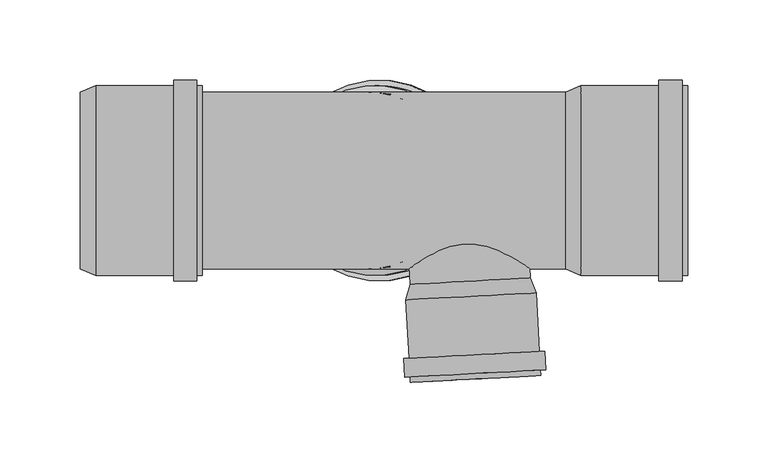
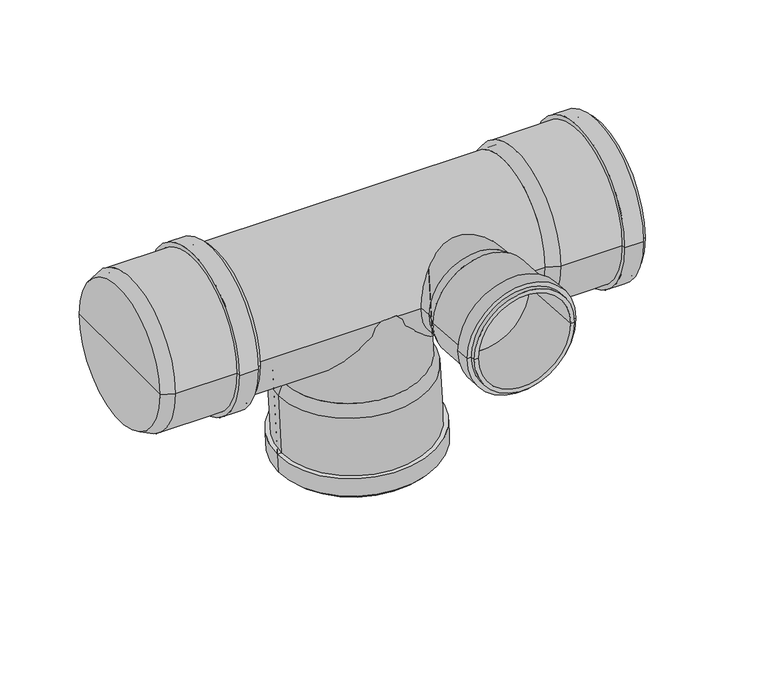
"""IFC4 building model written with IfcOpenShell, lengths in millimetres: pipe fitting geometry, pf_HTEP : pf_HTEP."""

from ifc_helpers import new_model, si_unit, point, frame, origin, origin_2d, place, context, project, spatial, polyline, circle_curve, trimmed, segment, composite_curve, outline, extrude, source, transform, mapped, element, save
from ifc_brep_helpers import plane_surface, cylinder_surface, revolved_surface, advanced_brep


def pipe_fitting_6fac2806(model_context):
    return source(origin(), model_context, "Body", "SolidModel", [
        advanced_brep(
        [(-111.5227873, 0.0, -67.7893974), (-1.6735384, 0.0, -62.0324422), (2.9180342, 0.0, -71.3048453), (-115.1199768, 0.0, -77.4909554), (-56.5981628, 0.0, -64.9109198), (-111.6396357, 0.0, -143.8998194), (6.3983753, 0.0, -137.7137094), (2.3039942, 0.0, -137.9282868), (-107.5452546, 0.0, -143.685242), (-111.8175779, 0.0, -140.504479), (6.2204331, 0.0, -134.318369), (-115.2129183, 0.0, -140.6824212), (9.6157735, 0.0, -134.1404267), (-115.9717897, 0.0, -126.202293), (8.8569021, 0.0, -119.6602985), (-112.5764493, 0.0, -126.0243507), (5.4615617, 0.0, -119.8382407), (-111.0255957, 0.0, -77.2763779), (-1.1763468, 0.0, -71.5194227), (-56.1009713, 0.0, -74.3979003)],
        [
            (0, 1, circle_curve(frame((-56.5981628, 0.0, -64.9109198), z_axis=(0.05233595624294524, 0.0, -0.9986295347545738), x_axis=(0.9986295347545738, 0.0, 0.05233595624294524)), 55.0)),
            (1, 2),
            (2, 3, circle_curve(frame((-56.1009713, 0.0, -74.3979003), z_axis=(-0.05233595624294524, 0.0, 0.9986295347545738), x_axis=(0.9986295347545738, 0.0, 0.05233595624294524)), 59.1)),
            (3, 0),
            (1, 0, circle_curve(frame((-56.5981628, 0.0, -64.9109198), z_axis=(0.05233595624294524, 0.0, -0.9986295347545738), x_axis=(0.9986295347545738, 0.0, 0.05233595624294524)), 55.0)),
            (3, 2, circle_curve(frame((-56.1009713, 0.0, -74.3979003), z_axis=(-0.05233595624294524, 0.0, 0.9986295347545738), x_axis=(0.9986295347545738, 0.0, 0.05233595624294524)), 59.1)),
            (4, 1),
            (0, 4),
            (5, 6, circle_curve(frame((-52.6206302, 0.0, -140.8067644), z_axis=(0.05233595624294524, 0.0, -0.9986295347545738), x_axis=(0.9986295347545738, 0.0, 0.05233595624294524)), 59.1)),
            (6, 7),
            (7, 8, circle_curve(frame((-52.6206302, 0.0, -140.8067644), z_axis=(-0.05233595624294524, 0.0, 0.9986295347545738), x_axis=(0.9986295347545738, 0.0, 0.05233595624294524)), 55.0)),
            (8, 5),
            (6, 5, circle_curve(frame((-52.6206302, 0.0, -140.8067644), z_axis=(0.05233595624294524, 0.0, -0.9986295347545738), x_axis=(0.9986295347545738, 0.0, 0.05233595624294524)), 59.1)),
            (8, 7, circle_curve(frame((-52.6206302, 0.0, -140.8067644), z_axis=(-0.05233595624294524, 0.0, 0.9986295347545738), x_axis=(0.9986295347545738, 0.0, 0.05233595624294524)), 55.0)),
            (9, 10, circle_curve(frame((-52.7985724, 0.0, -137.411424), z_axis=(0.05233595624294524, 0.0, -0.9986295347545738), x_axis=(0.9986295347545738, 0.0, 0.05233595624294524)), 59.1)),
            (10, 6),
            (5, 9),
            (10, 9, circle_curve(frame((-52.7985724, 0.0, -137.411424), z_axis=(0.05233595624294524, 0.0, -0.9986295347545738), x_axis=(0.9986295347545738, 0.0, 0.05233595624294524)), 59.1)),
            (11, 12, circle_curve(frame((-52.7985724, 0.0, -137.411424), z_axis=(0.05233595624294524, 0.0, -0.9986295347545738), x_axis=(0.9986295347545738, 0.0, 0.05233595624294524)), 62.5)),
            (12, 10),
            (9, 11),
            (12, 11, circle_curve(frame((-52.7985724, 0.0, -137.411424), z_axis=(0.05233595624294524, 0.0, -0.9986295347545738), x_axis=(0.9986295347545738, 0.0, 0.05233595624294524)), 62.5)),
            (13, 14, circle_curve(frame((-53.5574438, 0.0, -122.9312957), z_axis=(0.05233595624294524, 0.0, -0.9986295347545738), x_axis=(0.9986295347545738, 0.0, 0.05233595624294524)), 62.5)),
            (14, 12),
            (11, 13),
            (14, 13, circle_curve(frame((-53.5574438, 0.0, -122.9312957), z_axis=(0.05233595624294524, 0.0, -0.9986295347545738), x_axis=(0.9986295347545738, 0.0, 0.05233595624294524)), 62.5)),
            (15, 16, circle_curve(frame((-53.5574438, 0.0, -122.9312957), z_axis=(0.05233595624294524, 0.0, -0.9986295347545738), x_axis=(0.9986295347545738, 0.0, 0.05233595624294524)), 59.1)),
            (16, 14),
            (13, 15),
            (16, 15, circle_curve(frame((-53.5574438, 0.0, -122.9312957), z_axis=(0.05233595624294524, 0.0, -0.9986295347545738), x_axis=(0.9986295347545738, 0.0, 0.05233595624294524)), 59.1)),
            (2, 16),
            (15, 3),
            (17, 18, circle_curve(frame((-56.1009713, 0.0, -74.3979003), z_axis=(0.05233595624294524, 0.0, -0.9986295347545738), x_axis=(0.9986295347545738, 0.0, 0.05233595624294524)), 55.0)),
            (18, 19),
            (19, 17),
            (18, 17, circle_curve(frame((-56.1009713, 0.0, -74.3979003), z_axis=(0.05233595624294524, 0.0, -0.9986295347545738), x_axis=(0.9986295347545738, 0.0, 0.05233595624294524)), 55.0)),
            (7, 18),
            (17, 8),
        ],
        [
            revolved_surface(polyline([(2.9180342, 0.0, -71.3048453), (-1.6735384, 0.0, -62.0324422)]), (-56.5981628, 0.0, -64.9109198), (-0.05233595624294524, 0.0, 0.9986295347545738)),
            plane_surface(frame((-56.5981628, 0.0, -64.9109198), z_axis=(-0.05233595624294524, 0.0, 0.9986295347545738), x_axis=(0.9986295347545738, 0.0, 0.05233595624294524))),
            plane_surface(frame((-52.6206302, 0.0, -140.8067644), z_axis=(0.05233595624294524, 0.0, -0.9986295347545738), x_axis=(0.9986295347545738, 0.0, 0.05233595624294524))),
            cylinder_surface(frame((-56.5981628, 0.0, -64.9109198), z_axis=(-0.05233595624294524, 0.0, 0.9986295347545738), x_axis=(0.9986295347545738, 0.0, 0.05233595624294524)), 59.1),
            plane_surface(frame((-52.7985724, 0.0, -137.411424), z_axis=(0.05233595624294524, 0.0, -0.9986295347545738), x_axis=(0.9986295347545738, 0.0, 0.05233595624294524))),
            cylinder_surface(frame((-56.5981628, 0.0, -64.9109198), z_axis=(-0.05233595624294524, 0.0, 0.9986295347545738), x_axis=(0.9986295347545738, 0.0, 0.05233595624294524)), 62.5),
            plane_surface(frame((-53.5574438, 0.0, -122.9312957), z_axis=(-0.05233595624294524, 0.0, 0.9986295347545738), x_axis=(0.9986295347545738, 0.0, 0.05233595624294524))),
            plane_surface(frame((-56.1009713, 0.0, -74.3979003), z_axis=(0.05233595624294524, 0.0, -0.9986295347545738), x_axis=(0.9986295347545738, 0.0, 0.05233595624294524))),
            revolved_surface(polyline([(-1.1763468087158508, 0.0, -71.51942270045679), (2.3039942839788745, 0.0, -137.9282868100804)]), (-56.5981628, 0.0, -64.9109198), (-0.05233595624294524, 0.0, 0.9986295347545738)),
        ],
        [
            (0, [[1, 2, 3, 4]]),
            (0, [[5, -4, 6, -2]]),
            (1, [[7, -1, 8]]),
            (1, [[-8, -5, -7]]),
            (2, [[9, 10, 11, 12]]),
            (2, [[13, -12, 14, -10]]),
            (3, [[15, 16, -9, 17]]),
            (3, [[18, -17, -13, -16]]),
            (4, [[19, 20, -15, 21]]),
            (4, [[22, -21, -18, -20]]),
            (5, [[23, 24, -19, 25]]),
            (5, [[26, -25, -22, -24]]),
            (6, [[27, 28, -23, 29]]),
            (6, [[30, -29, -26, -28]]),
            (3, [[-3, 31, -27, 32]]),
            (3, [[-6, -32, -30, -31]]),
            (7, [[33, 34, 35]]),
            (7, [[36, -35, -34]]),
            (8, [[-11, 37, -33, 38]]),
            (8, [[-14, -38, -36, -37]]),
        ],
    ),
        advanced_brep(
        [(-34.1619095, -64.6765331, 0.0), (40.7353056, -60.7513364, 0.0), (44.3282487, -70.0760755, 0.0), (-36.7604695, -74.3257552, 0.0), (3.2866981, -62.7139348, 0.0), (-34.0651677, -125.7551762, 0.0), (47.0235505, -121.5054966, 0.0), (43.9277989, -121.667738, 0.0), (-30.9694162, -125.5929348, 0.0), (-34.24311, -122.3598358, 0.0), (46.8456082, -118.1101562, 0.0), (-37.6384504, -122.5377781, 0.0), (50.2409487, -117.9322139, 0.0), (-38.2455475, -110.9536755, 0.0), (49.6338516, -106.3481113, 0.0), (-34.8502071, -110.7757332, 0.0), (46.2385112, -106.5260536, 0.0), (-33.6647179, -74.1635137, 0.0), (41.2324972, -70.238317, 0.0), (3.7838896, -72.2009154, 0.0)],
        [
            (0, 1, circle_curve(frame((3.2866981, -62.7139348, 0.0), z_axis=(0.052335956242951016, -0.9986295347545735, 0.0), x_axis=(0.9986295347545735, 0.052335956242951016, 0.0)), 37.5)),
            (1, 2),
            (2, 3, circle_curve(frame((3.7838896, -72.2009154, 0.0), z_axis=(-0.052335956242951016, 0.9986295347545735, 0.0), x_axis=(0.9986295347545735, 0.052335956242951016, 0.0)), 40.6)),
            (3, 0),
            (1, 0, circle_curve(frame((3.2866981, -62.7139348, 0.0), z_axis=(0.052335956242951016, -0.9986295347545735, 0.0), x_axis=(0.9986295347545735, 0.052335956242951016, 0.0)), 37.5)),
            (3, 2, circle_curve(frame((3.7838896, -72.2009154, 0.0), z_axis=(-0.052335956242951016, 0.9986295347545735, 0.0), x_axis=(0.9986295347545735, 0.052335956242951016, 0.0)), 40.6)),
            (4, 1),
            (0, 4),
            (5, 6, circle_curve(frame((6.4791914, -123.6303364, 0.0), z_axis=(0.052335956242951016, -0.9986295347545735, 0.0), x_axis=(0.9986295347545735, 0.052335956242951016, 0.0)), 40.6)),
            (6, 7),
            (7, 8, circle_curve(frame((6.4791914, -123.6303364, 0.0), z_axis=(-0.052335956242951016, 0.9986295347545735, 0.0), x_axis=(0.9986295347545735, 0.052335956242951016, 0.0)), 37.5)),
            (8, 5),
            (6, 5, circle_curve(frame((6.4791914, -123.6303364, 0.0), z_axis=(0.052335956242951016, -0.9986295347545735, 0.0), x_axis=(0.9986295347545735, 0.052335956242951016, 0.0)), 40.6)),
            (8, 7, circle_curve(frame((6.4791914, -123.6303364, 0.0), z_axis=(-0.052335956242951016, 0.9986295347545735, 0.0), x_axis=(0.9986295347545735, 0.052335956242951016, 0.0)), 37.5)),
            (9, 10, circle_curve(frame((6.3012491, -120.234996, 0.0), z_axis=(0.052335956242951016, -0.9986295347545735, 0.0), x_axis=(0.9986295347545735, 0.052335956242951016, 0.0)), 40.6)),
            (10, 6),
            (5, 9),
            (10, 9, circle_curve(frame((6.3012491, -120.234996, 0.0), z_axis=(0.052335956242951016, -0.9986295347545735, 0.0), x_axis=(0.9986295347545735, 0.052335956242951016, 0.0)), 40.6)),
            (11, 12, circle_curve(frame((6.3012491, -120.234996, 0.0), z_axis=(0.052335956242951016, -0.9986295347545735, 0.0), x_axis=(0.9986295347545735, 0.052335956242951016, 0.0)), 44.0)),
            (12, 10),
            (9, 11),
            (12, 11, circle_curve(frame((6.3012491, -120.234996, 0.0), z_axis=(0.052335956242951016, -0.9986295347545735, 0.0), x_axis=(0.9986295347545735, 0.052335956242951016, 0.0)), 44.0)),
            (13, 14, circle_curve(frame((5.694152, -108.6508934, 0.0), z_axis=(0.052335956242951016, -0.9986295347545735, 0.0), x_axis=(0.9986295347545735, 0.052335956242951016, 0.0)), 44.0)),
            (14, 12),
            (11, 13),
            (14, 13, circle_curve(frame((5.694152, -108.6508934, 0.0), z_axis=(0.052335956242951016, -0.9986295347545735, 0.0), x_axis=(0.9986295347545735, 0.052335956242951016, 0.0)), 44.0)),
            (15, 16, circle_curve(frame((5.694152, -108.6508934, 0.0), z_axis=(0.052335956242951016, -0.9986295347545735, 0.0), x_axis=(0.9986295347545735, 0.052335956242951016, 0.0)), 40.6)),
            (16, 14),
            (13, 15),
            (16, 15, circle_curve(frame((5.694152, -108.6508934, 0.0), z_axis=(0.052335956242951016, -0.9986295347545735, 0.0), x_axis=(0.9986295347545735, 0.052335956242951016, 0.0)), 40.6)),
            (2, 16),
            (15, 3),
            (17, 18, circle_curve(frame((3.7838896, -72.2009154, 0.0), z_axis=(0.052335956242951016, -0.9986295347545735, 0.0), x_axis=(0.9986295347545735, 0.052335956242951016, 0.0)), 37.5)),
            (18, 19),
            (19, 17),
            (18, 17, circle_curve(frame((3.7838896, -72.2009154, 0.0), z_axis=(0.052335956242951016, -0.9986295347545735, 0.0), x_axis=(0.9986295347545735, 0.052335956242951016, 0.0)), 37.5)),
            (7, 18),
            (17, 8),
        ],
        [
            revolved_surface(polyline([(44.3282487, -70.0760755, 0.0), (40.7353056, -60.7513364, 0.0)]), (3.2866981, -62.7139348, 0.0), (-0.052335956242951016, 0.9986295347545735, 0.0)),
            plane_surface(frame((3.2866981, -62.7139348, 0.0), z_axis=(-0.052335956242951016, 0.9986295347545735, 0.0), x_axis=(0.9986295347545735, 0.052335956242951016, 0.0))),
            plane_surface(frame((6.4791914, -123.6303364, 0.0), z_axis=(0.052335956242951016, -0.9986295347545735, 0.0), x_axis=(0.9986295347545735, 0.052335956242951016, 0.0))),
            cylinder_surface(frame((3.2866981, -62.7139348, 0.0), z_axis=(-0.052335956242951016, 0.9986295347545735, 0.0), x_axis=(0.9986295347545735, 0.052335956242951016, 0.0)), 40.6),
            plane_surface(frame((6.3012491, -120.234996, 0.0), z_axis=(0.052335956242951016, -0.9986295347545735, 0.0), x_axis=(0.9986295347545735, 0.052335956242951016, 0.0))),
            cylinder_surface(frame((3.2866981, -62.7139348, 0.0), z_axis=(-0.052335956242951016, 0.9986295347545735, 0.0), x_axis=(0.9986295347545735, 0.052335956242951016, 0.0)), 44.0),
            plane_surface(frame((5.694152, -108.6508934, 0.0), z_axis=(-0.052335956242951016, 0.9986295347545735, 0.0), x_axis=(0.9986295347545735, 0.052335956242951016, 0.0))),
            plane_surface(frame((3.7838896, -72.2009154, 0.0), z_axis=(0.052335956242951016, -0.9986295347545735, 0.0), x_axis=(0.9986295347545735, 0.052335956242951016, 0.0))),
            revolved_surface(polyline([(41.23249723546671, -70.23831698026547, 0.0), (43.927798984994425, -121.66773807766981, 0.0)]), (3.2866981, -62.7139348, 0.0), (-0.052335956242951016, 0.9986295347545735, 0.0)),
        ],
        [
            (0, [[1, 2, 3, 4]]),
            (0, [[5, -4, 6, -2]]),
            (1, [[7, -1, 8]]),
            (1, [[-8, -5, -7]]),
            (2, [[9, 10, 11, 12]]),
            (2, [[13, -12, 14, -10]]),
            (3, [[15, 16, -9, 17]]),
            (3, [[18, -17, -13, -16]]),
            (4, [[19, 20, -15, 21]]),
            (4, [[22, -21, -18, -20]]),
            (5, [[23, 24, -19, 25]]),
            (5, [[26, -25, -22, -24]]),
            (6, [[27, 28, -23, 29]]),
            (6, [[30, -29, -26, -28]]),
            (3, [[-3, 31, -27, 32]]),
            (3, [[-6, -32, -30, -31]]),
            (7, [[33, 34, 35]]),
            (7, [[36, -35, -34]]),
            (8, [[-11, 37, -33, 38]]),
            (8, [[-14, -38, -36, -37]]),
        ],
    ),
        advanced_brep(
        [(62.6, -55.0, 0.0), (62.6, 55.0, 0.0), (72.1, 59.1, 0.0), (72.1, -59.1, 0.0), (62.6, 0.0, 0.0), (138.6, -59.1, 0.0), (138.6, 59.1, 0.0), (138.6, 55.0, 0.0), (138.6, -55.0, 0.0), (135.2, -59.1, 0.0), (135.2, 59.1, 0.0), (135.2, -62.5, 0.0), (135.2, 62.5, 0.0), (120.7, -62.5, 0.0), (120.7, 62.5, 0.0), (120.7, -59.1, 0.0), (120.7, 59.1, 0.0), (72.1, -55.0, 0.0), (72.1, 55.0, 0.0), (72.1, 0.0, 0.0)],
        [
            (0, 1, circle_curve(frame((62.6, 0.0, 0.0), z_axis=(1.0, 0.0, 0.0), x_axis=(0.0, 1.0, 0.0)), 55.0)),
            (1, 2),
            (2, 3, circle_curve(frame((72.1, 0.0, 0.0), z_axis=(-1.0, 0.0, 0.0), x_axis=(0.0, 1.0, 0.0)), 59.1)),
            (3, 0),
            (1, 0, circle_curve(frame((62.6, 0.0, 0.0), z_axis=(1.0, 0.0, 0.0), x_axis=(0.0, 1.0, 0.0)), 55.0)),
            (3, 2, circle_curve(frame((72.1, 0.0, 0.0), z_axis=(-1.0, 0.0, 0.0), x_axis=(0.0, 1.0, 0.0)), 59.1)),
            (4, 1),
            (0, 4),
            (5, 6, circle_curve(frame((138.6, 0.0, 0.0), z_axis=(1.0, 0.0, 0.0), x_axis=(0.0, 1.0, 0.0)), 59.1)),
            (6, 7),
            (7, 8, circle_curve(frame((138.6, 0.0, 0.0), z_axis=(-1.0, 0.0, 0.0), x_axis=(0.0, 1.0, 0.0)), 55.0)),
            (8, 5),
            (6, 5, circle_curve(frame((138.6, 0.0, 0.0), z_axis=(1.0, 0.0, 0.0), x_axis=(0.0, 1.0, 0.0)), 59.1)),
            (8, 7, circle_curve(frame((138.6, 0.0, 0.0), z_axis=(-1.0, 0.0, 0.0), x_axis=(0.0, 1.0, 0.0)), 55.0)),
            (9, 10, circle_curve(frame((135.2, 0.0, 0.0), z_axis=(1.0, 0.0, 0.0), x_axis=(0.0, 1.0, 0.0)), 59.1)),
            (10, 6),
            (5, 9),
            (10, 9, circle_curve(frame((135.2, 0.0, 0.0), z_axis=(1.0, 0.0, 0.0), x_axis=(0.0, 1.0, 0.0)), 59.1)),
            (11, 12, circle_curve(frame((135.2, 0.0, 0.0), z_axis=(1.0, 0.0, 0.0), x_axis=(0.0, 1.0, 0.0)), 62.5)),
            (12, 10),
            (9, 11),
            (12, 11, circle_curve(frame((135.2, 0.0, 0.0), z_axis=(1.0, 0.0, 0.0), x_axis=(0.0, 1.0, 0.0)), 62.5)),
            (13, 14, circle_curve(frame((120.7, 0.0, 0.0), z_axis=(1.0, 0.0, 0.0), x_axis=(0.0, 1.0, 0.0)), 62.5)),
            (14, 12),
            (11, 13),
            (14, 13, circle_curve(frame((120.7, 0.0, 0.0), z_axis=(1.0, 0.0, 0.0), x_axis=(0.0, 1.0, 0.0)), 62.5)),
            (15, 16, circle_curve(frame((120.7, 0.0, 0.0), z_axis=(1.0, 0.0, 0.0), x_axis=(0.0, 1.0, 0.0)), 59.1)),
            (16, 14),
            (13, 15),
            (16, 15, circle_curve(frame((120.7, 0.0, 0.0), z_axis=(1.0, 0.0, 0.0), x_axis=(0.0, 1.0, 0.0)), 59.1)),
            (2, 16),
            (15, 3),
            (17, 18, circle_curve(frame((72.1, 0.0, 0.0), z_axis=(1.0, 0.0, 0.0), x_axis=(0.0, 1.0, 0.0)), 55.0)),
            (18, 19),
            (19, 17),
            (18, 17, circle_curve(frame((72.1, 0.0, 0.0), z_axis=(1.0, 0.0, 0.0), x_axis=(0.0, 1.0, 0.0)), 55.0)),
            (7, 18),
            (17, 8),
        ],
        [
            revolved_surface(polyline([(72.1, 59.1, 0.0), (62.6, 55.0, 0.0)]), (62.6, 0.0, 0.0), (-1.0, 0.0, 0.0)),
            plane_surface(frame((62.6, 0.0, 0.0), z_axis=(-1.0, 0.0, 0.0), x_axis=(0.0, 1.0, 0.0))),
            plane_surface(frame((138.6, 0.0, 0.0), z_axis=(1.0, 0.0, 0.0), x_axis=(0.0, 1.0, 0.0))),
            cylinder_surface(frame((62.6, 0.0, 0.0), z_axis=(-1.0, 0.0, 0.0), x_axis=(0.0, 1.0, 0.0)), 59.1),
            plane_surface(frame((135.2, 0.0, 0.0), z_axis=(1.0, 0.0, 0.0), x_axis=(0.0, 1.0, 0.0))),
            cylinder_surface(frame((62.6, 0.0, 0.0), z_axis=(-1.0, 0.0, 0.0), x_axis=(0.0, 1.0, 0.0)), 62.5),
            plane_surface(frame((120.7, 0.0, 0.0), z_axis=(-1.0, 0.0, 0.0), x_axis=(0.0, 1.0, 0.0))),
            plane_surface(frame((72.1, 0.0, 0.0), z_axis=(1.0, 0.0, 0.0), x_axis=(0.0, 1.0, 0.0))),
            revolved_surface(polyline([(72.1, 55.0, 0.0), (138.6, 55.0, 0.0)]), (62.6, 0.0, 0.0), (-1.0, 0.0, 0.0)),
        ],
        [
            (0, [[1, 2, 3, 4]]),
            (0, [[5, -4, 6, -2]]),
            (1, [[7, -1, 8]]),
            (1, [[-8, -5, -7]]),
            (2, [[9, 10, 11, 12]]),
            (2, [[13, -12, 14, -10]]),
            (3, [[15, 16, -9, 17]]),
            (3, [[18, -17, -13, -16]]),
            (4, [[19, 20, -15, 21]]),
            (4, [[22, -21, -18, -20]]),
            (5, [[23, 24, -19, 25]]),
            (5, [[26, -25, -22, -24]]),
            (6, [[27, 28, -23, 29]]),
            (6, [[30, -29, -26, -28]]),
            (3, [[-3, 31, -27, 32]]),
            (3, [[-6, -32, -30, -31]]),
            (7, [[33, 34, 35]]),
            (7, [[36, -35, -34]]),
            (8, [[-11, 37, -33, 38]]),
            (8, [[-14, -38, -36, -37]]),
        ],
    ),
        advanced_brep(
        [(-239.5, -55.0, 0.0), (-239.5, 55.0, 0.0), (-230.0, 59.1, 0.0), (-230.0, -59.1, 0.0), (-239.5, 0.0, 0.0), (-163.5, -59.1, 0.0), (-163.5, 59.1, 0.0), (-163.5, 55.0, 0.0), (-163.5, -55.0, 0.0), (-166.9, -59.1, 0.0), (-166.9, 59.1, 0.0), (-166.9, -62.5, 0.0), (-166.9, 62.5, 0.0), (-181.4, -62.5, 0.0), (-181.4, 62.5, 0.0), (-181.4, -59.1, 0.0), (-181.4, 59.1, 0.0), (-230.0, -55.0, 0.0), (-230.0, 55.0, 0.0), (-230.0, 0.0, 0.0)],
        [
            (0, 1, circle_curve(frame((-239.5, 0.0, 0.0), z_axis=(1.0, 0.0, 0.0), x_axis=(0.0, 1.0, 0.0)), 55.0)),
            (1, 2),
            (2, 3, circle_curve(frame((-230.0, 0.0, 0.0), z_axis=(-1.0, 0.0, 0.0), x_axis=(0.0, 1.0, 0.0)), 59.1)),
            (3, 0),
            (1, 0, circle_curve(frame((-239.5, 0.0, 0.0), z_axis=(1.0, 0.0, 0.0), x_axis=(0.0, 1.0, 0.0)), 55.0)),
            (3, 2, circle_curve(frame((-230.0, 0.0, 0.0), z_axis=(-1.0, 0.0, 0.0), x_axis=(0.0, 1.0, 0.0)), 59.1)),
            (4, 1),
            (0, 4),
            (5, 6, circle_curve(frame((-163.5, 0.0, 0.0), z_axis=(1.0, 0.0, 0.0), x_axis=(0.0, 1.0, 0.0)), 59.1)),
            (6, 7),
            (7, 8, circle_curve(frame((-163.5, 0.0, 0.0), z_axis=(-1.0, 0.0, 0.0), x_axis=(0.0, 1.0, 0.0)), 55.0)),
            (8, 5),
            (6, 5, circle_curve(frame((-163.5, 0.0, 0.0), z_axis=(1.0, 0.0, 0.0), x_axis=(0.0, 1.0, 0.0)), 59.1)),
            (8, 7, circle_curve(frame((-163.5, 0.0, 0.0), z_axis=(-1.0, 0.0, 0.0), x_axis=(0.0, 1.0, 0.0)), 55.0)),
            (9, 10, circle_curve(frame((-166.9, 0.0, 0.0), z_axis=(1.0, 0.0, 0.0), x_axis=(0.0, 1.0, 0.0)), 59.1)),
            (10, 6),
            (5, 9),
            (10, 9, circle_curve(frame((-166.9, 0.0, 0.0), z_axis=(1.0, 0.0, 0.0), x_axis=(0.0, 1.0, 0.0)), 59.1)),
            (11, 12, circle_curve(frame((-166.9, 0.0, 0.0), z_axis=(1.0, 0.0, 0.0), x_axis=(0.0, 1.0, 0.0)), 62.5)),
            (12, 10),
            (9, 11),
            (12, 11, circle_curve(frame((-166.9, 0.0, 0.0), z_axis=(1.0, 0.0, 0.0), x_axis=(0.0, 1.0, 0.0)), 62.5)),
            (13, 14, circle_curve(frame((-181.4, 0.0, 0.0), z_axis=(1.0, 0.0, 0.0), x_axis=(0.0, 1.0, 0.0)), 62.5)),
            (14, 12),
            (11, 13),
            (14, 13, circle_curve(frame((-181.4, 0.0, 0.0), z_axis=(1.0, 0.0, 0.0), x_axis=(0.0, 1.0, 0.0)), 62.5)),
            (15, 16, circle_curve(frame((-181.4, 0.0, 0.0), z_axis=(1.0, 0.0, 0.0), x_axis=(0.0, 1.0, 0.0)), 59.1)),
            (16, 14),
            (13, 15),
            (16, 15, circle_curve(frame((-181.4, 0.0, 0.0), z_axis=(1.0, 0.0, 0.0), x_axis=(0.0, 1.0, 0.0)), 59.1)),
            (2, 16),
            (15, 3),
            (17, 18, circle_curve(frame((-230.0, 0.0, 0.0), z_axis=(1.0, 0.0, 0.0), x_axis=(0.0, 1.0, 0.0)), 55.0)),
            (18, 19),
            (19, 17),
            (18, 17, circle_curve(frame((-230.0, 0.0, 0.0), z_axis=(1.0, 0.0, 0.0), x_axis=(0.0, 1.0, 0.0)), 55.0)),
            (7, 18),
            (17, 8),
        ],
        [
            revolved_surface(polyline([(-230.0, 59.1, 0.0), (-239.5, 55.0, 0.0)]), (-239.5, 0.0, 0.0), (-1.0, 0.0, 0.0)),
            plane_surface(frame((-239.5, 0.0, 0.0), z_axis=(-1.0, 0.0, 0.0), x_axis=(0.0, 1.0, 0.0))),
            plane_surface(frame((-163.5, 0.0, 0.0), z_axis=(1.0, 0.0, 0.0), x_axis=(0.0, 1.0, 0.0))),
            cylinder_surface(frame((-239.5, 0.0, 0.0), z_axis=(-1.0, 0.0, 0.0), x_axis=(0.0, 1.0, 0.0)), 59.1),
            plane_surface(frame((-166.9, 0.0, 0.0), z_axis=(1.0, 0.0, 0.0), x_axis=(0.0, 1.0, 0.0))),
            cylinder_surface(frame((-239.5, 0.0, 0.0), z_axis=(-1.0, 0.0, 0.0), x_axis=(0.0, 1.0, 0.0)), 62.5),
            plane_surface(frame((-181.4, 0.0, 0.0), z_axis=(-1.0, 0.0, 0.0), x_axis=(0.0, 1.0, 0.0))),
            plane_surface(frame((-230.0, 0.0, 0.0), z_axis=(1.0, 0.0, 0.0), x_axis=(0.0, 1.0, 0.0))),
            revolved_surface(polyline([(-230.0, 55.0, 0.0), (-163.5, 55.0, 0.0)]), (-239.5, 0.0, 0.0), (-1.0, 0.0, 0.0)),
        ],
        [
            (0, [[1, 2, 3, 4]]),
            (0, [[5, -4, 6, -2]]),
            (1, [[7, -1, 8]]),
            (1, [[-8, -5, -7]]),
            (2, [[9, 10, 11, 12]]),
            (2, [[13, -12, 14, -10]]),
            (3, [[15, 16, -9, 17]]),
            (3, [[18, -17, -13, -16]]),
            (4, [[19, 20, -15, 21]]),
            (4, [[22, -21, -18, -20]]),
            (5, [[23, 24, -19, 25]]),
            (5, [[26, -25, -22, -24]]),
            (6, [[27, 28, -23, 29]]),
            (6, [[30, -29, -26, -28]]),
            (3, [[-3, 31, -27, 32]]),
            (3, [[-6, -32, -30, -31]]),
            (7, [[33, 34, 35]]),
            (7, [[36, -35, -34]]),
            (8, [[-11, 37, -33, 38]]),
            (8, [[-14, -38, -36, -37]]),
        ],
    ),
        extrude(outline(composite_curve([segment(trimmed(circle_curve(origin_2d(), 55.0), [point((0.0, -55.0000001))], [point((0.0, 55.0))], False, "CARTESIAN"), True, "CONTINUOUS"), segment(trimmed(circle_curve(origin_2d(), 55.0), [point((0.0, 55.0))], [point((0.0, -55.0000001))], False, "CARTESIAN"), True, "CONTINUOUS")], self_intersect=False)), frame((-56.5981628, 0.0, -64.9109198), z_axis=(-0.05233595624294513, 0.0, 0.9986295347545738), x_axis=(0.0, -1.0, 0.0)), (0.0, 0.0, 1.0), 65.0),
        extrude(outline(composite_curve([segment(trimmed(circle_curve(origin_2d(), 37.5), [point((0.0, -37.5))], [point((0.0, 37.4999999))], False, "CARTESIAN"), True, "CONTINUOUS"), segment(trimmed(circle_curve(origin_2d(), 37.5), [point((0.0, 37.4999999))], [point((0.0, -37.5))], False, "CARTESIAN"), True, "CONTINUOUS")], self_intersect=False)), frame((3.2866981, -62.7139348, 0.0), z_axis=(-0.052335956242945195, 0.9986295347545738, 0.0), x_axis=(0.0, 0.0, 1.0)), (0.0, 0.0, 1.0), 62.8),
        extrude(outline(composite_curve([segment(trimmed(circle_curve(origin_2d(), 55.0), [point((-55.0, 0.0))], [point((55.0, 0.0))], False, "CARTESIAN"), True, "CONTINUOUS"), segment(trimmed(circle_curve(origin_2d(), 55.0), [point((55.0, 0.0))], [point((-55.0, 0.0))], False, "CARTESIAN"), True, "CONTINUOUS")], self_intersect=False)), frame((-163.5, 0.0, 0.0), z_axis=(1.0, 0.0, 0.0), x_axis=(0.0, 1.0, 0.0)), (0.0, 0.0, 1.0), 226.1),
    ])


if __name__ == "__main__":
    model = new_model("IFC4")
    model_context = context("Model", 3, world=origin())
    ifc_project = project(units=[si_unit("LENGTHUNIT", "METRE", prefix="MILLI")], contexts=[model_context])
    site = spatial("IfcSite", under=ifc_project)
    building = spatial("IfcBuilding", under=site)
    placement = place(None, origin())
    pipe_fitting_shape = pipe_fitting_6fac2806(model_context)
    element("IfcPipeFitting", 1, ObjectType="pf_HTEP : pf_HTEP", at=placement, inside=building, context=model_context, shape_type="MappedRepresentation", body=[
        mapped(pipe_fitting_shape, transform((0.0, 0.0, 0.0), x_axis=(1.0, 0.0, 0.0), y_axis=(0.0, 1.0, 0.0), z_axis=(0.0, 0.0, 1.0))),
    ])
    save(model, "model.ifc")
